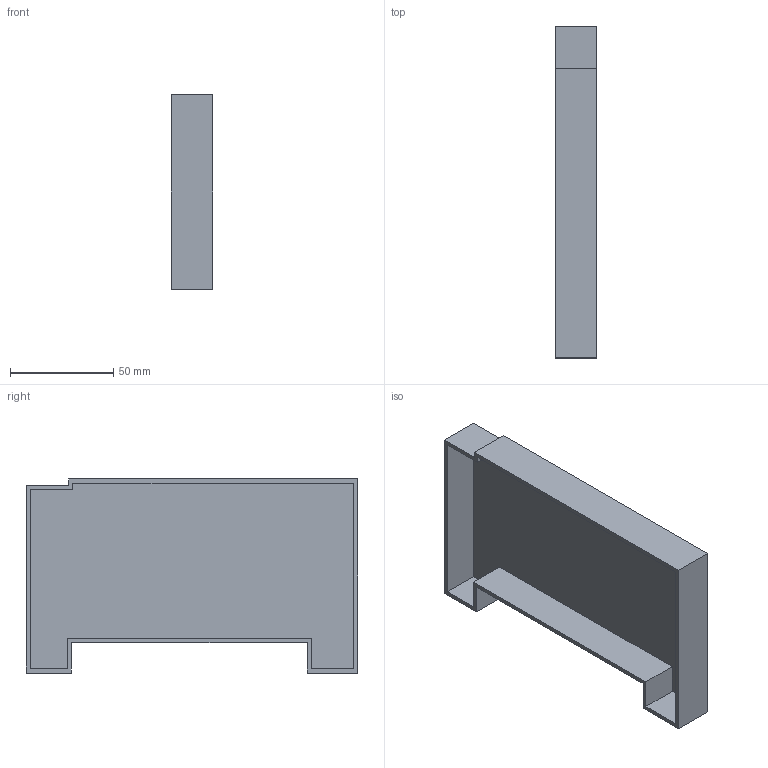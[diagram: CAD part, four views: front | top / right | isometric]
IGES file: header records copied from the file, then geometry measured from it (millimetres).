
Start section:  PTC IGES file: j3-11-55k-sidecover.igs
Global section: file name: j3-11-55k-sidecover.igs; native system: Pro/ENGINEER by Parametric Technology Corporation; preprocessor: 2006420; author: JE18792; organization: Unknown; date: 20101129.152801; units: millimetre
Bounding box: 20 x 161 x 94.2 mm (x, y, z)
Volume: 45987.3 mm3; surface area: 47066.9 mm2
Topology: 1 solids, 1 shells, 23 faces, 60 edges, 40 vertices
Faces by surface type: bspline 23
